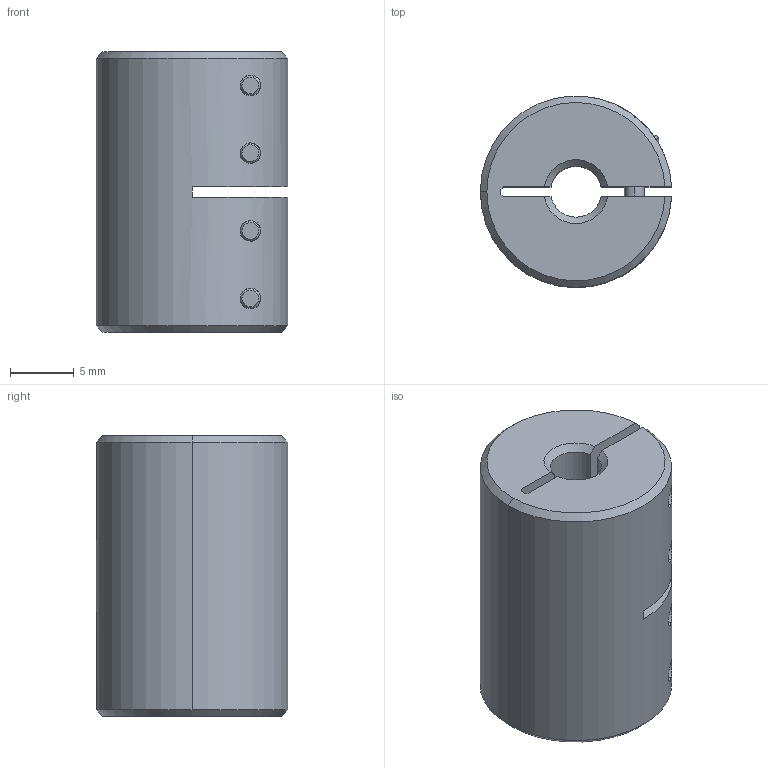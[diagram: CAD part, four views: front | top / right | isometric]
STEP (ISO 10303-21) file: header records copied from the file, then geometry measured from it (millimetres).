
FILE_DESCRIPTION((''),'2;1');
FILE_NAME('MCLX-4-4-X','2016-09-07T',('SYSTEM'),(''),'PRO/ENGINEER BY PARAMETRIC TECHNOLOGY CORPORATION, 2015110','PRO/ENGINEER BY PARAMETRIC TECHNOLOGY CORPORATION, 2015110','');
FILE_SCHEMA(('AUTOMOTIVE_DESIGN { 1 0 10303 214 1 1 1 1 }'));
Length unit declared in the file: inch
Products named in the file (1): MCLX-4-4-X
Bounding box: 14.99 x 15 x 22 mm (x, y, z)
Volume: 3218.5 mm3; surface area: 2582 mm2
Topology: 1 solids, 1 shells, 128 faces, 312 edges, 204 vertices
Faces by surface type: plane 61, cylinder 44, cone 23
Entity records: 5026 total; most frequent: CARTESIAN_POINT 990, DIRECTION 646, ORIENTED_EDGE 624, EDGE_CURVE 312, AXIS2_PLACEMENT_3D 238, VERTEX_POINT 204, VECTOR 170, LINE 170
